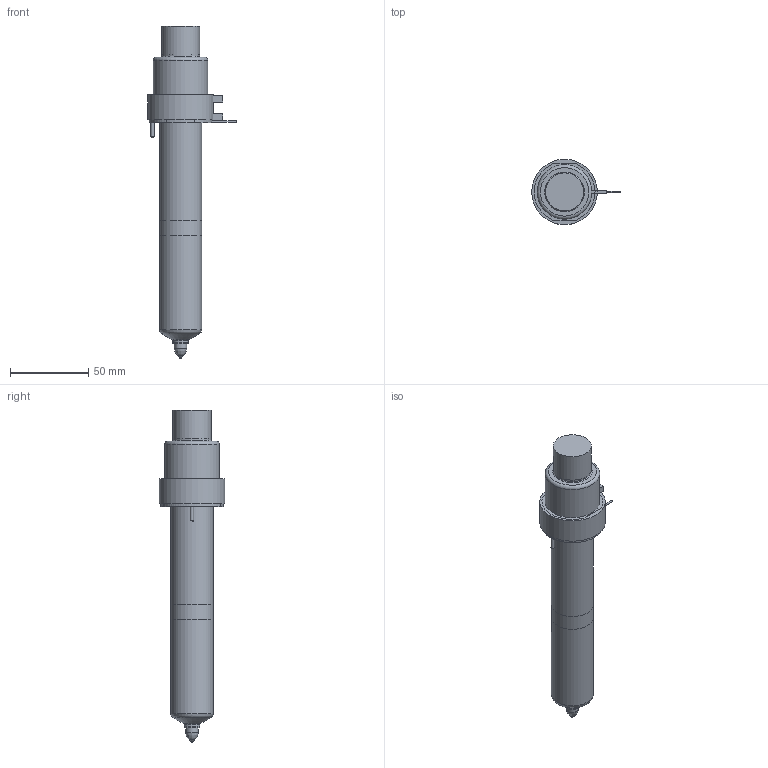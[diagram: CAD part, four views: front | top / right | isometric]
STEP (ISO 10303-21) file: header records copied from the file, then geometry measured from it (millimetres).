
FILE_DESCRIPTION(/* description */ (''),/* implementation_level */ '2;1');
FILE_NAME(/* name */ 'SXTT-SXIT13145-5_250C_b',/* time_stamp */ '2007-01-24T17:21:28+13:00',/* author */ (''),/* organization */ (''),/* preprocessor_version */ 'ST-DEVELOPER v9',/* originating_system */ 'UGS - NX 4.0',/* authorisation */ '');
FILE_SCHEMA (('CONFIG_CONTROL_DESIGN'));
Length unit declared in the file: millimetre
Products named in the file (1): SXTT-SXIT13145-5_250C_b
Bounding box: 56.65 x 42 x 212.69 mm (x, y, z)
Volume: 234501.8 mm3; surface area: 41324.6 mm2
Topology: 7 solids, 7 shells, 99 faces, 192 edges, 121 vertices
Faces by surface type: plane 45, cylinder 30, cone 12, torus 10, bspline 2
Full cylindrical faces by diameter (mm): 0.9 x1, 1 x3, 2 x2, 5.5 x1, 6 x1, 8 x1, 9.61 x1, 10.01 x2, 12.6 x1, 22.2 x1, 24 x1, 24.4 x1, 27 x2, 31.8 x1, 35 x1, 40 x1, 42 x1
Entity records: 2413 total; most frequent: CARTESIAN_POINT 486, DIRECTION 408, ORIENTED_EDGE 282, AXIS2_PLACEMENT_3D 179, EDGE_LOOP 156, EDGE_CURVE 141, VERTEX_POINT 114, ADVANCED_FACE 99
